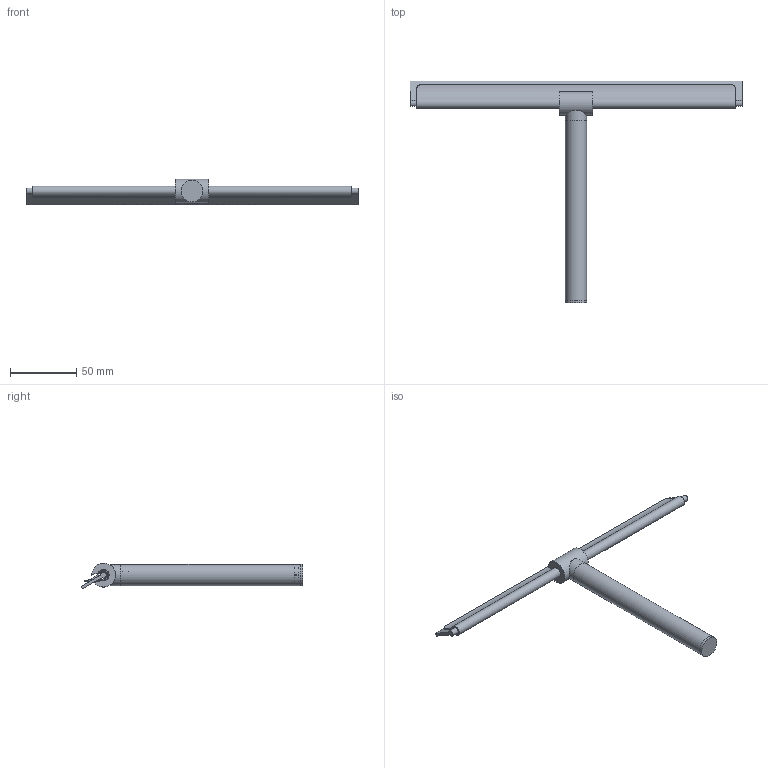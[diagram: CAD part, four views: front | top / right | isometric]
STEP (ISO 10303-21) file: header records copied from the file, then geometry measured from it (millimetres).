
FILE_DESCRIPTION(/* description */ (''),/* implementation_level */ '2;1');
FILE_NAME(/* name */ 'c:\worker\convert-fusion-r09\tmp\job-1\35\output\files\3e394e73-067b-479f-b06d-b6bf4011cff5\02cdad0a-5e1c-4d47-b4a3-9a20fcfb0827.stp',/* time_stamp */ '2020-01-09T12:33:29+00:00',/* author */ (''),/* organization */ (''),/* preprocessor_version */ 'ST-DEVELOPER v18',/* originating_system */ 'Autodesk Translation Framework v8.12.0.6',/* authorisation */ '');
FILE_SCHEMA (('AUTOMOTIVE_DESIGN { 1 0 10303 214 3 1 1 }'));
Length unit declared in the file: millimetre
Products named in the file (1): !UN10900
Bounding box: 250 x 166.91 x 19.36 mm (x, y, z)
Volume: 32441 mm3; surface area: 45727.9 mm2
Topology: 7 solids, 7 shells, 94 faces, 261 edges, 179 vertices
Faces by surface type: cylinder 43, plane 41, cone 6, bspline 4
Full cylindrical faces by diameter (mm): 3.3 x3, 4.2 x1, 5 x2, 8.5 x1, 9 x1, 10 x5, 11 x1, 13.9 x1, 14 x1, 16 x2, 16.2 x1
Entity records: 5423 total; most frequent: CARTESIAN_POINT 3006, ORIENTED_EDGE 522, DIRECTION 453, EDGE_CURVE 261, VERTEX_POINT 179, AXIS2_PLACEMENT_3D 171, LINE 111, VECTOR 111
